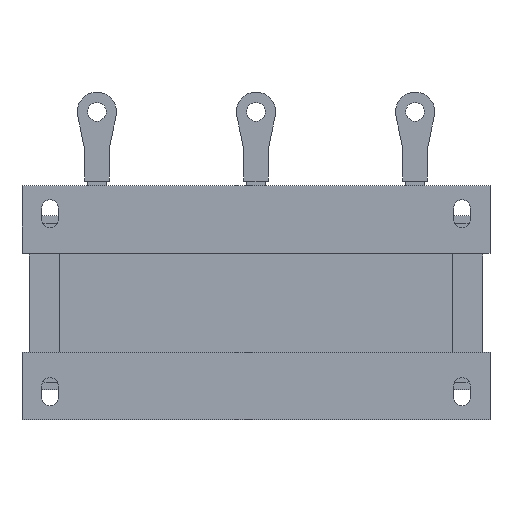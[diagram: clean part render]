
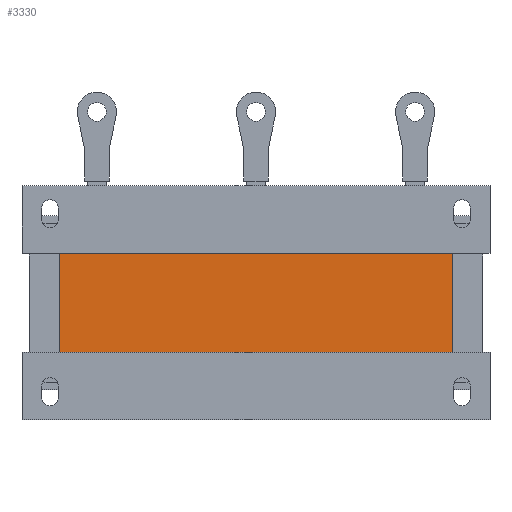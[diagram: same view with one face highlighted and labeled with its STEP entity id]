
A CAD part, front view. The second image highlights one B-rep face of the part: STEP entity #3330.
In plain terms, the highlighted planar face has unit normal (0, -1, 0).
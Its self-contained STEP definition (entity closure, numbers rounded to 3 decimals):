
#184=FACE_OUTER_BOUND('',#380,.T.);
#380=EDGE_LOOP('',(#2297,#2298,#2299,#2300));
#633=LINE('',#4901,#1047);
#634=LINE('',#4903,#1048);
#635=LINE('',#4905,#1049);
#636=LINE('',#4906,#1050);
#1047=VECTOR('',#3954,10.);
#1048=VECTOR('',#3955,10.);
#1049=VECTOR('',#3956,10.);
#1050=VECTOR('',#3957,10.);
#1455=VERTEX_POINT('',#4899);
#1456=VERTEX_POINT('',#4900);
#1457=VERTEX_POINT('',#4902);
#1458=VERTEX_POINT('',#4904);
#1789=EDGE_CURVE('',#1455,#1456,#633,.T.);
#1790=EDGE_CURVE('',#1457,#1455,#634,.T.);
#1791=EDGE_CURVE('',#1458,#1457,#635,.T.);
#1792=EDGE_CURVE('',#1456,#1458,#636,.T.);
#2297=ORIENTED_EDGE('',*,*,#1789,.F.);
#2298=ORIENTED_EDGE('',*,*,#1790,.F.);
#2299=ORIENTED_EDGE('',*,*,#1791,.F.);
#2300=ORIENTED_EDGE('',*,*,#1792,.F.);
#3158=PLANE('',#3583);
#3330=ADVANCED_FACE('',(#184),#3158,.F.);
#3583=AXIS2_PLACEMENT_3D('',#4898,#3952,#3953);
#3952=DIRECTION('center_axis',(0.,1.,0.));
#3953=DIRECTION('ref_axis',(0.,0.,1.));
#3954=DIRECTION('',(1.,0.,0.));
#3955=DIRECTION('',(0.,0.,1.));
#3956=DIRECTION('',(-1.,0.,0.));
#3957=DIRECTION('',(0.,0.,-1.));
#4898=CARTESIAN_POINT('Origin',(0.,2.,0.));
#4899=CARTESIAN_POINT('',(-105.,2.,26.5));
#4900=CARTESIAN_POINT('',(105.,2.,26.5));
#4901=CARTESIAN_POINT('',(105.,2.,26.5));
#4902=CARTESIAN_POINT('',(-105.,2.,-26.5));
#4903=CARTESIAN_POINT('',(-105.,2.,-13.25));
#4904=CARTESIAN_POINT('',(105.,2.,-26.5));
#4905=CARTESIAN_POINT('',(-105.,2.,-26.5));
#4906=CARTESIAN_POINT('',(105.,2.,13.25));
